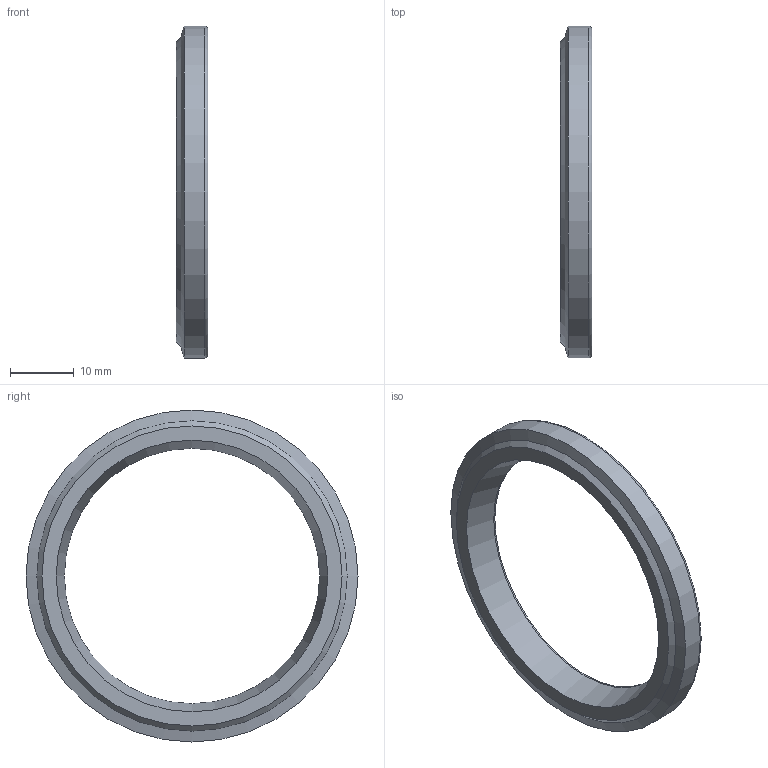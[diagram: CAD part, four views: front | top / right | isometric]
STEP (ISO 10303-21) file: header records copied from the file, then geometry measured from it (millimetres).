
FILE_DESCRIPTION(('STEP AP203'),'1');
FILE_NAME('D:/Desktop/BOSCH CAD/CBX/CBX-40.step','2022-02-17T07:20:49',(' '),(' '),'Spatial InterOp 3D',' ',' ');
FILE_SCHEMA(('CONFIG_CONTROL_DESIGN'));
Length unit declared in the file: millimetre
Products named in the file (1): 1
Bounding box: 5 x 52 x 52 mm (x, y, z)
Volume: 3554.1 mm3; surface area: 3106.5 mm2
Topology: 1 solids, 1 shells, 12 faces, 20 edges, 12 vertices
Faces by surface type: cone 4, plane 4, cylinder 3, torus 1
Full cylindrical faces by diameter (mm): 40 x1, 42.2 x1, 52 x1
Entity records: 292 total; most frequent: DIRECTION 50, CARTESIAN_POINT 37, AXIS2_PLACEMENT_3D 25, EDGE_LOOP 24, ORIENTED_EDGE 24, FACE_OUTER_BOUND 16, ADVANCED_FACE 12, EDGE_CURVE 12
